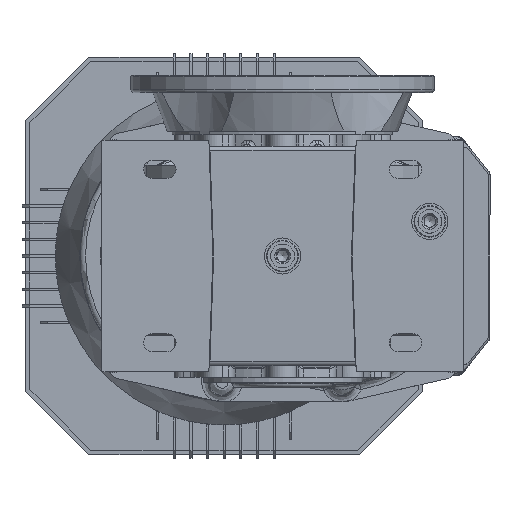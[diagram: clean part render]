
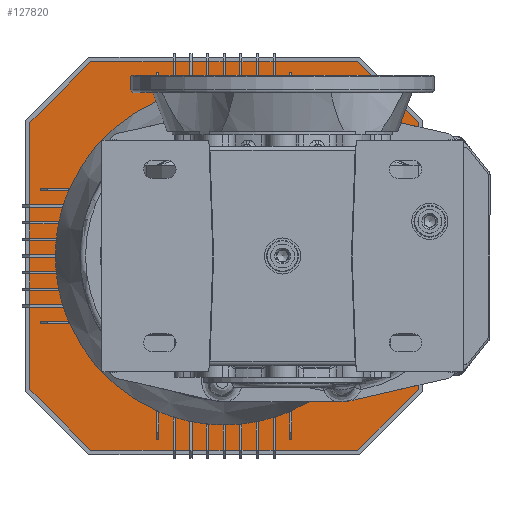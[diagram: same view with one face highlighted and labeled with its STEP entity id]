
A CAD part, left-side view. The second image highlights one B-rep face of the part: STEP entity #127820.
In plain terms, the highlighted planar face has unit normal (-1, 0, 0).
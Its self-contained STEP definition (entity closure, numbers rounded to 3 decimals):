
#127332=CARTESIAN_POINT('',(393.2,0.,57.2));
#127333=VERTEX_POINT('',#127332);
#127334=CARTESIAN_POINT('',(393.2,0.,-57.2));
#127335=VERTEX_POINT('',#127334);
#127336=CARTESIAN_POINT('',(393.2,0.,0.));
#127337=DIRECTION('',(-1.0,0.0,0.0));
#127338=DIRECTION('',(0.0,0.0,-1.0));
#127339=AXIS2_PLACEMENT_3D('',#127336,#127337,#127338);
#127340=CIRCLE('',#127339,57.2);
#127341=EDGE_CURVE('',#127333,#127335,#127340,.T.);
#127343=CARTESIAN_POINT('',(393.2,0.,0.));
#127344=DIRECTION('',(-1.0,0.0,0.0));
#127345=DIRECTION('',(0.0,0.0,-1.0));
#127346=AXIS2_PLACEMENT_3D('',#127343,#127344,#127345);
#127347=CIRCLE('',#127346,57.2);
#127348=EDGE_CURVE('',#127335,#127333,#127347,.T.);
#127362=CARTESIAN_POINT('',(393.2,-92.417,134.5));
#127363=VERTEX_POINT('',#127362);
#127364=CARTESIAN_POINT('',(393.2,92.417,134.5));
#127365=VERTEX_POINT('',#127364);
#127366=CARTESIAN_POINT('',(393.2,-92.417,134.5));
#127367=DIRECTION('',(0.0,1.0,0.0));
#127368=VECTOR('',#127367,184.833);
#127369=LINE('',#127366,#127368);
#127370=EDGE_CURVE('',#127363,#127365,#127369,.T.);
#127451=CARTESIAN_POINT('',(393.2,134.5,92.417));
#127452=VERTEX_POINT('',#127451);
#127453=CARTESIAN_POINT('',(393.2,92.417,134.5));
#127454=DIRECTION('',(0.0,0.707,-0.707));
#127455=VECTOR('',#127454,59.515);
#127456=LINE('',#127453,#127455);
#127457=EDGE_CURVE('',#127365,#127452,#127456,.T.);
#127482=CARTESIAN_POINT('',(393.2,134.5,-92.417));
#127483=VERTEX_POINT('',#127482);
#127484=CARTESIAN_POINT('',(393.2,134.5,92.417));
#127485=DIRECTION('',(0.0,0.0,-1.0));
#127486=VECTOR('',#127485,184.833);
#127487=LINE('',#127484,#127486);
#127488=EDGE_CURVE('',#127452,#127483,#127487,.T.);
#127562=CARTESIAN_POINT('',(393.2,92.417,-134.5));
#127563=VERTEX_POINT('',#127562);
#127564=CARTESIAN_POINT('',(393.2,134.5,-92.417));
#127565=DIRECTION('',(0.0,-0.707,-0.707));
#127566=VECTOR('',#127565,59.515);
#127567=LINE('',#127564,#127566);
#127568=EDGE_CURVE('',#127483,#127563,#127567,.T.);
#127593=CARTESIAN_POINT('',(393.2,-92.417,-134.5));
#127594=VERTEX_POINT('',#127593);
#127595=CARTESIAN_POINT('',(393.2,92.417,-134.5));
#127596=DIRECTION('',(0.0,-1.0,0.0));
#127597=VECTOR('',#127596,184.833);
#127598=LINE('',#127595,#127597);
#127599=EDGE_CURVE('',#127563,#127594,#127598,.T.);
#127673=CARTESIAN_POINT('',(393.2,-134.5,-92.417));
#127674=VERTEX_POINT('',#127673);
#127675=CARTESIAN_POINT('',(393.2,-92.417,-134.5));
#127676=DIRECTION('',(0.0,-0.707,0.707));
#127677=VECTOR('',#127676,59.515);
#127678=LINE('',#127675,#127677);
#127679=EDGE_CURVE('',#127594,#127674,#127678,.T.);
#127704=CARTESIAN_POINT('',(393.2,-134.5,92.417));
#127705=VERTEX_POINT('',#127704);
#127706=CARTESIAN_POINT('',(393.2,-134.5,-92.417));
#127707=DIRECTION('',(0.0,0.0,1.0));
#127708=VECTOR('',#127707,184.833);
#127709=LINE('',#127706,#127708);
#127710=EDGE_CURVE('',#127674,#127705,#127709,.T.);
#127784=CARTESIAN_POINT('',(393.2,-134.5,92.417));
#127785=DIRECTION('',(0.0,0.707,0.707));
#127786=VECTOR('',#127785,59.515);
#127787=LINE('',#127784,#127786);
#127788=EDGE_CURVE('',#127705,#127363,#127787,.T.);
#127801=CARTESIAN_POINT('',(393.2,0.,0.0));
#127802=DIRECTION('',(1.0,0.0,0.0));
#127803=DIRECTION('',(0.0,0.0,-1.0));
#127804=AXIS2_PLACEMENT_3D('',#127801,#127802,#127803);
#127805=PLANE('',#127804);
#127806=ORIENTED_EDGE('',*,*,#127370,.T.);
#127807=ORIENTED_EDGE('',*,*,#127457,.T.);
#127808=ORIENTED_EDGE('',*,*,#127488,.T.);
#127809=ORIENTED_EDGE('',*,*,#127568,.T.);
#127810=ORIENTED_EDGE('',*,*,#127599,.T.);
#127811=ORIENTED_EDGE('',*,*,#127679,.T.);
#127812=ORIENTED_EDGE('',*,*,#127710,.T.);
#127813=ORIENTED_EDGE('',*,*,#127788,.T.);
#127814=EDGE_LOOP('',(#127806,#127807,#127808,#127809,#127810,#127811,#127812,#127813));
#127815=FACE_OUTER_BOUND('',#127814,.T.);
#127816=ORIENTED_EDGE('',*,*,#127341,.F.);
#127817=ORIENTED_EDGE('',*,*,#127348,.F.);
#127818=EDGE_LOOP('',(#127816,#127817));
#127819=FACE_BOUND('',#127818,.T.);
#127820=ADVANCED_FACE('',(#127815,#127819),#127805,.F.);
